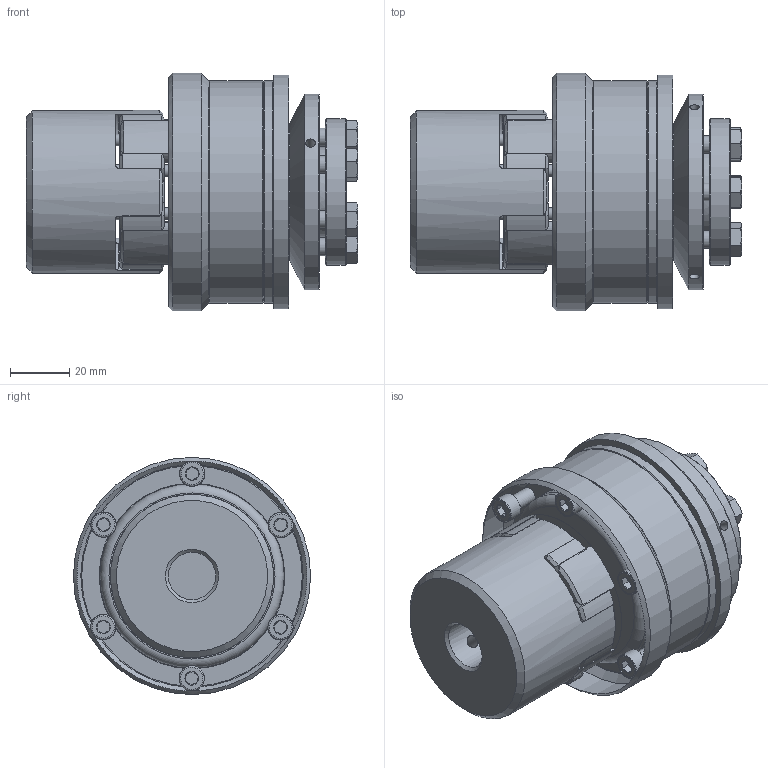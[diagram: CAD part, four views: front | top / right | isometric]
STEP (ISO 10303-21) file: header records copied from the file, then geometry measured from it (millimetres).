
FILE_DESCRIPTION( ( 'Unknown' ), '1' );
FILE_NAME( 'C:/Users/skarpstein/Desktop/Korrigierte 3D Modelle/KBK-E-PI/KBK EPI-24.stp', 'Unknown', ( 'Unknown' ), ( 'Unknown' ), 'PSStep 16.0.42', 'Unknown', ' ' );
FILE_SCHEMA( ( 'AUTOMOTIVE_DESIGN { 1 0 10303 214 1 1 1 1 }' ) );
Length unit declared in the file: millimetre
Products named in the file (29): ball_bearing_-_6007_0_01_0; ball_bearing_-_6007_0_03_0; ball_bearing_-_6007_0_02_0; KBK L-I-60 Grundkörper_0; a_35_0; Stellring 60_0; ISO EN DIN 4762_M5x20_0; Elastomerflansch 24_0; Konusbuchse 60_0; Zahnkranz_24_Standard_0; din_en_24017_m6x20_0; Flansch 60_0; Druckring 60_0; Assem2; Assem1; KBE 1 - 24_Nabe
Assembly tree (38 placements, depth 4):
  Assem1
    KBE 1 - 24_Nabe
    KBK L-I-60 Grundkörper_0
      KBK L-I-60 Grundkörper_0
    Konusbuchse 60_0
      Konusbuchse 60_0
    a_35_0
      a_35_0
    Stellring 60_0
      Stellring 60_0
    Druckring 60_0
      Druckring 60_0
    Flansch 60_0
      Flansch 60_0
    din_en_24017_m6x20_0  x6
      din_en_24017_m6x20_0
    Elastomerflansch 24_0
      Elastomerflansch 24_0
    Zahnkranz_24_Standard_0
      Zahnkranz_24_Standard_0
    ISO EN DIN 4762_M5x20_0  x6
      ISO EN DIN 4762_M5x20_0
    Assem2
      ball_bearing_-_6007_0_01_0
        ball_bearing_-_6007_0_01_0
      ball_bearing_-_6007_0_02_0
        ball_bearing_-_6007_0_02_0
      ball_bearing_-_6007_0_03_0
        ball_bearing_-_6007_0_03_0
Bounding box: 111.64 x 80 x 80 mm (x, y, z)
Volume: 293679.4 mm3; surface area: 118641.8 mm2
Topology: 24 solids, 24 shells, 651 faces, 1392 edges, 848 vertices
Faces by surface type: plane 225, cone 220, cylinder 169, torus 37
Full cylindrical faces by diameter (mm): 2.5 x2, 3.242 x3, 4 x11, 4.134 x6, 4.2 x1, 4.917 x9, 5 x6, 5.2 x6, 6 x6, 6.6 x6, 8.5 x12, 8.8 x6, 15 x2, 16 x1, 27 x2, 30 x1, 30.2 x1, 33 x1, 35 x3, 43.7 x2, 44 x1, 46 x2, 46.5 x1, 49.5 x1, 53.6 x2, 55 x2, 61.3 x1, 62 x3, 66 x1, 75 x2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
Entity records: 16152 total; most frequent: CARTESIAN_POINT 2917, DIRECTION 2122, ORIENTED_EDGE 1616, AXIS2_PLACEMENT_3D 995, EDGE_CURVE 808, EDGE_LOOP 658, VERTEX_POINT 564, FACE_OUTER_BOUND 533
